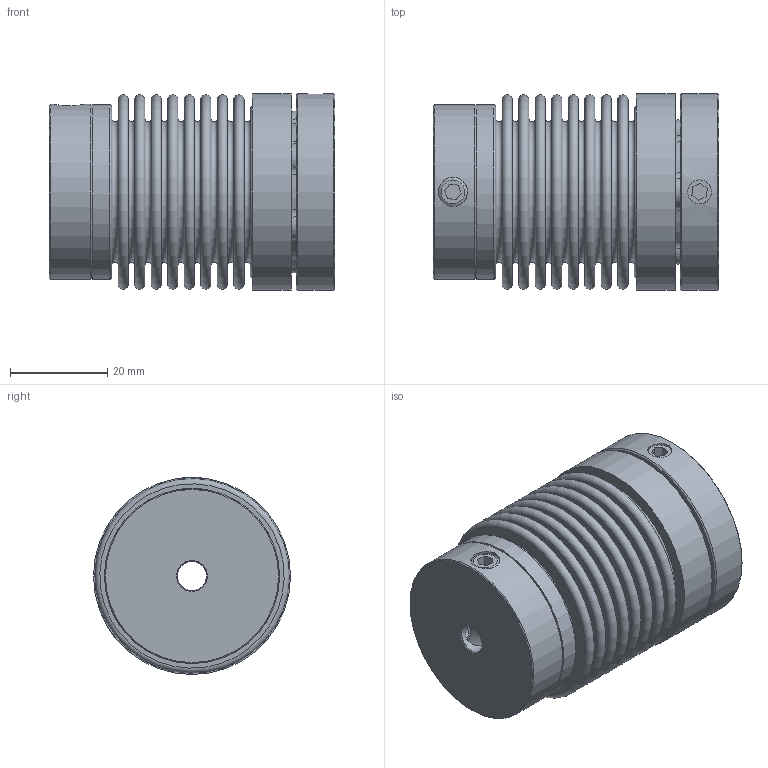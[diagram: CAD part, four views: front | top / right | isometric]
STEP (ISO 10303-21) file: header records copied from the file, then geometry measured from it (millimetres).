
FILE_DESCRIPTION( ( 'KBE1/14 - N7H8 - N14H7 - 98 Sh' ), '1' );
FILE_NAME( 'K:/Konstruktion/Fertigungszeichnungen/Metallbalgkupplung/KB1P/100/KB1P-100-60.stp', '14.12.2015', ( 'KBK-Antriebstechnik' ), ( 'KBK-Antriebstechnik' ), 'PSStep 16.0.42', 'Solid Edge St6', ' ' );
FILE_SCHEMA( ( 'AUTOMOTIVE_DESIGN { 1 0 10303 214 1 1 1 1 }' ) );
Length unit declared in the file: millimetre
Products named in the file (6): Assem1; Stecknabe KB1P-100; Socket Set Screw Cup Point_DIN_DIN 916 - M6 x 10-N_3; Balgaufnahme KB2P-100 für Step; MN100_Standard_1; BL100_Standard_1
Assembly tree (8 placements, depth 2):
  Assem1
    Stecknabe KB1P-100
    Socket Set Screw Cup Point_DIN_DIN 916 - M6 x 10-N_3  x4
    Balgaufnahme KB2P-100 für Step
    MN100_Standard_1
    BL100_Standard_1
Bounding box: 58.8 x 40.5 x 40.5 mm (x, y, z)
Volume: 37554.3 mm3; surface area: 38816.5 mm2
Topology: 8 solids, 8 shells, 201 faces, 437 edges, 285 vertices
Faces by surface type: plane 78, cone 66, torus 38, cylinder 19
Full cylindrical faces by diameter (mm): 4.917 x2, 6 x8, 34.343 x1, 35.143 x1, 35.2 x2, 36 x2, 40.5 x2
Entity records: 6047 total; most frequent: CARTESIAN_POINT 1070, DIRECTION 825, ORIENTED_EDGE 556, AXIS2_PLACEMENT_3D 379, EDGE_LOOP 279, EDGE_CURVE 278, VERTEX_POINT 238, FACE_OUTER_BOUND 218
